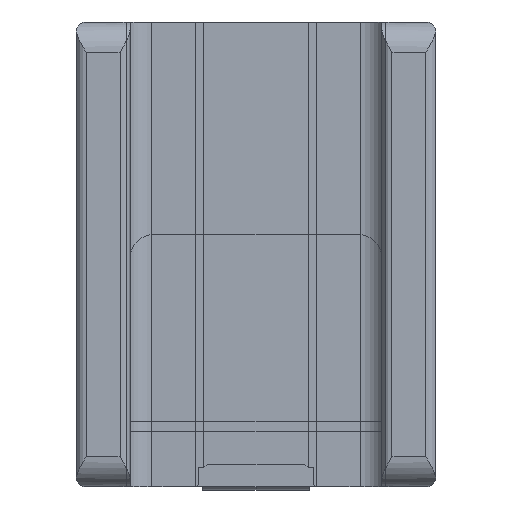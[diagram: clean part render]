
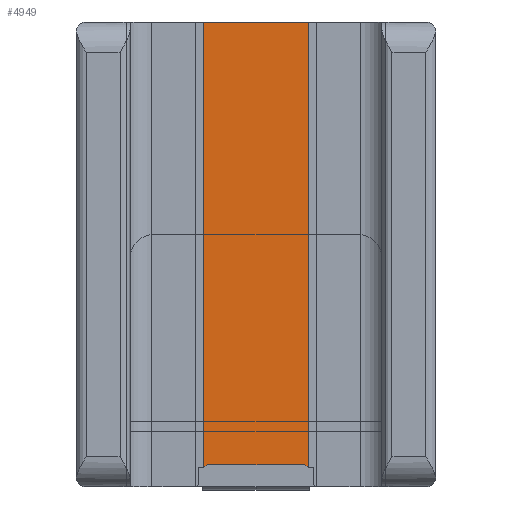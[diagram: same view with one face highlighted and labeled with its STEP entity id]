
A CAD part, front view. The second image highlights one B-rep face of the part: STEP entity #4949.
In plain terms, the highlighted planar face has unit normal (0, -1, 0).
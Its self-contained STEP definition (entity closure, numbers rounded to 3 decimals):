
#83 = EDGE_CURVE ( 'NONE', #9550, #5767, #7449, .T. ) ;
#359 = CARTESIAN_POINT ( 'NONE',  ( 29.786, 5014.75, 1577. ) ) ;
#375 = AXIS2_PLACEMENT_3D ( 'NONE', #5561, #4269, #1009 ) ;
#444 = DIRECTION ( 'NONE',  ( 0., 0., -1. ) ) ;
#483 = CARTESIAN_POINT ( 'NONE',  ( 25., 5014.75, 1577. ) ) ;
#717 = VECTOR ( 'NONE', #444, 1000. ) ;
#839 = CARTESIAN_POINT ( 'NONE',  ( 19.8, 5014.75, 1620.8 ) ) ;
#1009 = DIRECTION ( 'NONE',  ( 1., 0., 0. ) ) ;
#1319 = CARTESIAN_POINT ( 'NONE',  ( 30.2, 5014.75, 1576.746 ) ) ;
#2234 = CIRCLE ( 'NONE', #2729, 1. ) ;
#2729 = AXIS2_PLACEMENT_3D ( 'NONE', #9915, #5011, #2941 ) ;
#2772 = VERTEX_POINT ( 'NONE', #12078 ) ;
#2941 = DIRECTION ( 'NONE',  ( 1., 0., 0. ) ) ;
#3043 = EDGE_CURVE ( 'NONE', #10290, #9806, #11750, .T. ) ;
#3437 = CARTESIAN_POINT ( 'NONE',  ( 30.5, 5014.75, 1577.7 ) ) ;
#3560 = EDGE_CURVE ( 'NONE', #7959, #2772, #2234, .T. ) ;
#4269 = DIRECTION ( 'NONE',  ( 0., -1., 0. ) ) ;
#4802 = ORIENTED_EDGE ( 'NONE', *, *, #3560, .T. ) ;
#4905 = DIRECTION ( 'NONE',  ( 0., -1., 0. ) ) ;
#4949 = ADVANCED_FACE ( 'NONE', ( #13429 ), #14556, .T. ) ;
#5011 = DIRECTION ( 'NONE',  ( 0., -1., 0. ) ) ;
#5029 = DIRECTION ( 'NONE',  ( -1., 0., 0. ) ) ;
#5063 = LINE ( 'NONE', #11941, #717 ) ;
#5561 = CARTESIAN_POINT ( 'NONE',  ( 25., 5014.75, 1620.8 ) ) ;
#5604 = CARTESIAN_POINT ( 'NONE',  ( 30.2, 5014.75, 1620.8 ) ) ;
#5662 = ORIENTED_EDGE ( 'NONE', *, *, #3043, .T. ) ;
#5767 = VERTEX_POINT ( 'NONE', #1319 ) ;
#6334 = VECTOR ( 'NONE', #5029, 1000. ) ;
#6998 = DIRECTION ( 'NONE',  ( 1., 0., 0. ) ) ;
#7348 = CARTESIAN_POINT ( 'NONE',  ( 19.8, 5014.75, 1620.8 ) ) ;
#7388 = VECTOR ( 'NONE', #9551, 1000. ) ;
#7449 = CIRCLE ( 'NONE', #14456, 1. ) ;
#7636 = ORIENTED_EDGE ( 'NONE', *, *, #83, .T. ) ;
#7646 = LINE ( 'NONE', #839, #14856 ) ;
#7937 = DIRECTION ( 'NONE',  ( 0., 0., -1. ) ) ;
#7959 = VERTEX_POINT ( 'NONE', #10525 ) ;
#7992 = EDGE_CURVE ( 'NONE', #2772, #9550, #9853, .T. ) ;
#8224 = EDGE_CURVE ( 'NONE', #9806, #7959, #7646, .T. ) ;
#8728 = ORIENTED_EDGE ( 'NONE', *, *, #8224, .T. ) ;
#9550 = VERTEX_POINT ( 'NONE', #359 ) ;
#9551 = DIRECTION ( 'NONE',  ( 1., 0., 0. ) ) ;
#9806 = VERTEX_POINT ( 'NONE', #7348 ) ;
#9853 = LINE ( 'NONE', #483, #7388 ) ;
#9915 = CARTESIAN_POINT ( 'NONE',  ( 19.5, 5014.75, 1577.7 ) ) ;
#10033 = ORIENTED_EDGE ( 'NONE', *, *, #7992, .T. ) ;
#10290 = VERTEX_POINT ( 'NONE', #5604 ) ;
#10525 = CARTESIAN_POINT ( 'NONE',  ( 19.8, 5014.75, 1576.746 ) ) ;
#11750 = LINE ( 'NONE', #12810, #6334 ) ;
#11941 = CARTESIAN_POINT ( 'NONE',  ( 30.2, 5014.75, 1620.8 ) ) ;
#12078 = CARTESIAN_POINT ( 'NONE',  ( 20.214, 5014.75, 1577. ) ) ;
#12490 = ORIENTED_EDGE ( 'NONE', *, *, #14583, .F. ) ;
#12810 = CARTESIAN_POINT ( 'NONE',  ( 25., 5014.75, 1620.8 ) ) ;
#13429 = FACE_OUTER_BOUND ( 'NONE', #13948, .T. ) ;
#13948 = EDGE_LOOP ( 'NONE', ( #8728, #4802, #10033, #7636, #12490, #5662 ) ) ;
#14456 = AXIS2_PLACEMENT_3D ( 'NONE', #3437, #4905, #6998 ) ;
#14556 = PLANE ( 'NONE',  #375 ) ;
#14583 = EDGE_CURVE ( 'NONE', #10290, #5767, #5063, .T. ) ;
#14856 = VECTOR ( 'NONE', #7937, 1000. ) ;
